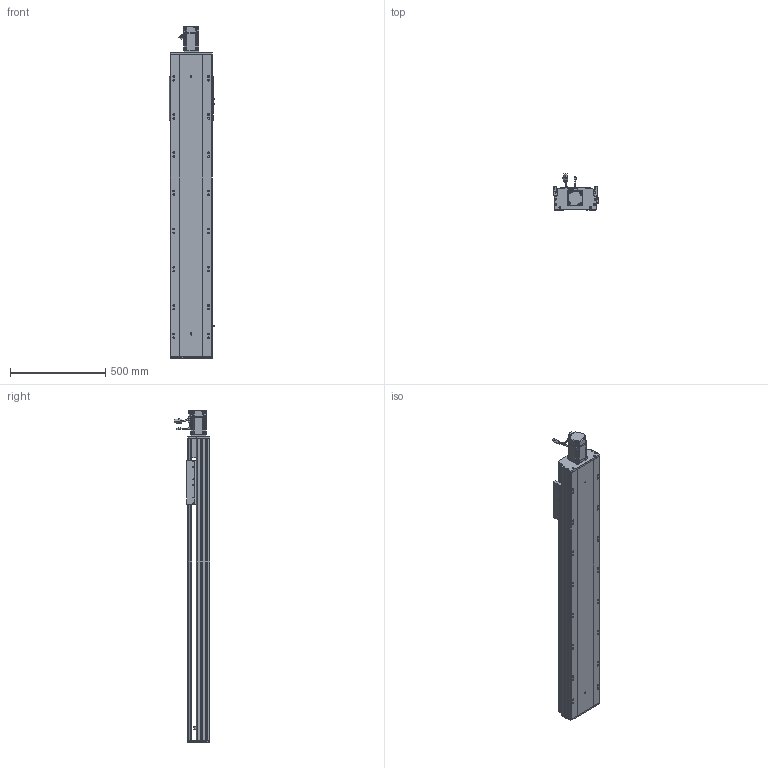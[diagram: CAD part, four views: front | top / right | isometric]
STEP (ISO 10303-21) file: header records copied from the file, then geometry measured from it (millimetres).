
FILE_DESCRIPTION (( 'STEP AP203' ), '1' );
FILE_NAME ('RY220-L2525-800-MK-邧嶺.SLDASM_1150.step', '2022-08-06T08:57:37', ( '' ), ( '' ), 'SwSTEP 2.0', 'SolidWorks 2016', '' );
FILE_SCHEMA (( 'CONFIG_CONTROL_DESIGN' ));
Length unit declared in the file: millimetre
Products named in the file (12): 覜茼ん672; 怢湛750W_ECMA-CX0807ES; RY220半封闭25-32螺母铝滑块; RY220-800-奻裔啣-MK_1150; RY220-L2525-800-MK-邧嶺.SLDASM_1150; RY220-俋离672覜茼んえ; RY220菁釱MK-800-邧嶺_1150; RY220ヶ裔啣; 滅袉蝶18-12; RY220綴裔啣; RY220电机支撑座FK20（PCD90M6）; 滅袉蝶18-15
Assembly tree (15 placements, depth 2):
  RY220-L2525-800-MK-邧嶺.SLDASM_1150
    RY220菁釱MK-800-邧嶺_1150
    RY220电机支撑座FK20（PCD90M6）
    怢湛750W_ECMA-CX0807ES
    滅袉蝶18-12  x2
    RY220ヶ裔啣
    RY220綴裔啣
    覜茼ん672  x3
    RY220半封闭25-32螺母铝滑块
    RY220-800-奻裔啣-MK_1150
    RY220-俋离672覜茼んえ
    滅袉蝶18-15  x2
Bounding box: 238.7 x 187.27 x 1740.3 mm (x, y, z)
Volume: 13520215.5 mm3; surface area: 3811938.7 mm2
Topology: 16 solids, 16 shells, 2264 faces, 6278 edges, 3958 vertices
Faces by surface type: cylinder 1026, plane 915, cone 261, bspline 36, sphere 16, torus 10
Entity records: 74456 total; most frequent: CARTESIAN_POINT 21115, ORIENTED_EDGE 11072, DIRECTION 10491, EDGE_CURVE 5536, AXIS2_PLACEMENT_3D 3697, VERTEX_POINT 3614, LINE 3097, VECTOR 3097
